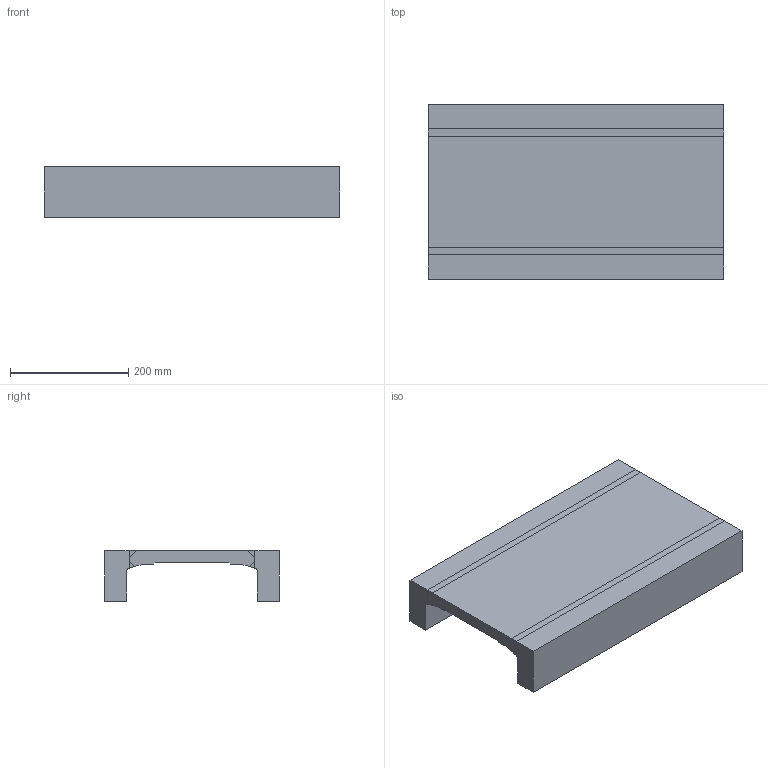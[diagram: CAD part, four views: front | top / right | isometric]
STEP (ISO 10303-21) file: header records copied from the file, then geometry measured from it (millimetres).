
FILE_DESCRIPTION((''),'2;1');
FILE_NAME('Z:\Kataloge\Katalog 109\Inventor-Dateien\Mammutrollen+MPI+MPU-Profile\ALFATEC_MPU_220_000.stp','2009-11-09T16:01:12',('Kircher'),(''),'Autodesk Inventor 2010','Autodesk Inventor 2010','');
FILE_SCHEMA(('CONFIG_CONTROL_DESIGN'));
Length unit declared in the file: millimetre
Products named in the file (4): ALFATEC_MPU_220_000; ALFATEC_MPU_220-Teil 1; ALFATEC_MPU_220-Teil 2; ALFATEC_MPU_220-Teil 3
Assembly tree (3 placements, depth 2):
  ALFATEC_MPU_220_000
    ALFATEC_MPU_220-Teil 1
    ALFATEC_MPU_220-Teil 2
    ALFATEC_MPU_220-Teil 3
Bounding box: 500 x 295 x 85 mm (x, y, z)
Volume: 5596884.7 mm3; surface area: 577077.5 mm2
Topology: 7 solids, 7 shells, 52 faces, 114 edges, 76 vertices
Faces by surface type: plane 50, cylinder 2
Entity records: 1529 total; most frequent: CARTESIAN_POINT 249, DIRECTION 236, ORIENTED_EDGE 228, EDGE_CURVE 114, VECTOR 110, LINE 110, VERTEX_POINT 76, AXIS2_PLACEMENT_3D 63
